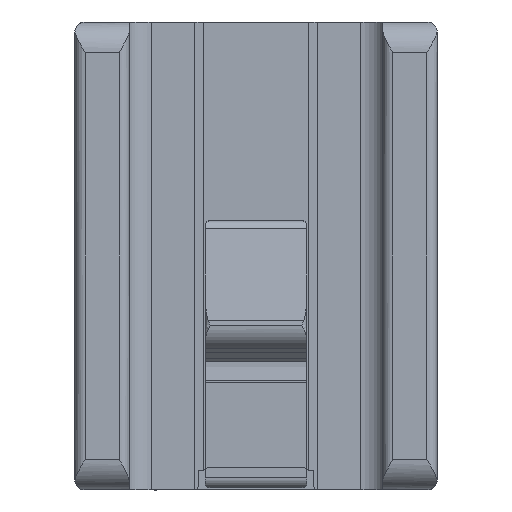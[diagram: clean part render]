
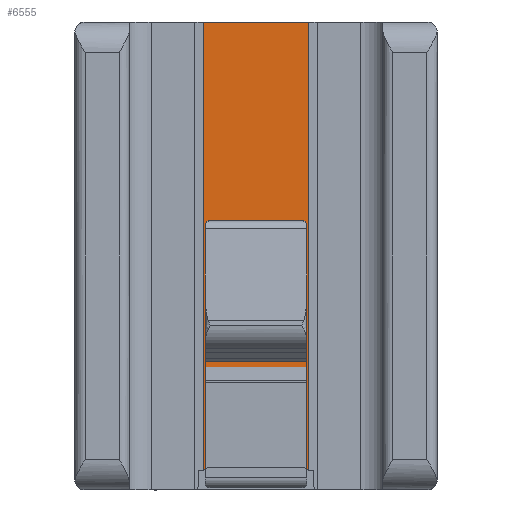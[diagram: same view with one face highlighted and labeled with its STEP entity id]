
A CAD part, front view. The second image highlights one B-rep face of the part: STEP entity #6555.
In plain terms, the highlighted planar face has unit normal (0, -1, 0).
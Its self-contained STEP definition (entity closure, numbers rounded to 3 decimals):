
#40 = DIRECTION ( 'NONE',  ( 0., -1., 0. ) ) ;
#213 = CARTESIAN_POINT ( 'NONE',  ( 19.8, 5664.25, 1620.8 ) ) ;
#300 = EDGE_CURVE ( 'NONE', #2592, #12517, #6272, .T. ) ;
#630 = VERTEX_POINT ( 'NONE', #4402 ) ;
#991 = AXIS2_PLACEMENT_3D ( 'NONE', #5789, #10683, #6741 ) ;
#1026 = CARTESIAN_POINT ( 'NONE',  ( 30.2, 5664.25, 1576.746 ) ) ;
#1062 = ORIENTED_EDGE ( 'NONE', *, *, #3240, .F. ) ;
#1076 = DIRECTION ( 'NONE',  ( 0., 0., -1. ) ) ;
#1127 = VECTOR ( 'NONE', #8123, 1000. ) ;
#2086 = EDGE_CURVE ( 'NONE', #5408, #10925, #6092, .T. ) ;
#2541 = CARTESIAN_POINT ( 'NONE',  ( 25., 5664.25, 1577. ) ) ;
#2592 = VERTEX_POINT ( 'NONE', #6695 ) ;
#2666 = VECTOR ( 'NONE', #5511, 1000. ) ;
#2897 = ORIENTED_EDGE ( 'NONE', *, *, #300, .T. ) ;
#3240 = EDGE_CURVE ( 'NONE', #8285, #12517, #5003, .T. ) ;
#3376 = EDGE_LOOP ( 'NONE', ( #10063, #11621, #6641, #2897, #1062, #11787 ) ) ;
#3396 = CARTESIAN_POINT ( 'NONE',  ( 30.2, 5664.25, 1620.8 ) ) ;
#3464 = CARTESIAN_POINT ( 'NONE',  ( 30.5, 5664.25, 1577.7 ) ) ;
#3833 = CIRCLE ( 'NONE', #991, 1. ) ;
#3862 = PLANE ( 'NONE',  #10234 ) ;
#4402 = CARTESIAN_POINT ( 'NONE',  ( 20.214, 5664.25, 1577. ) ) ;
#4783 = CARTESIAN_POINT ( 'NONE',  ( 19.8, 5664.25, 1576.746 ) ) ;
#4803 = CARTESIAN_POINT ( 'NONE',  ( 25., 5664.25, 1620.8 ) ) ;
#5003 = LINE ( 'NONE', #5950, #7921 ) ;
#5408 = VERTEX_POINT ( 'NONE', #213 ) ;
#5511 = DIRECTION ( 'NONE',  ( 0., 0., -1. ) ) ;
#5789 = CARTESIAN_POINT ( 'NONE',  ( 19.5, 5664.25, 1577.7 ) ) ;
#5807 = DIRECTION ( 'NONE',  ( 1., 0., 0. ) ) ;
#5950 = CARTESIAN_POINT ( 'NONE',  ( 30.2, 5664.25, 1620.8 ) ) ;
#6092 = LINE ( 'NONE', #9016, #2666 ) ;
#6272 = CIRCLE ( 'NONE', #7688, 1. ) ;
#6555 = ADVANCED_FACE ( 'NONE', ( #12347 ), #3862, .T. ) ;
#6641 = ORIENTED_EDGE ( 'NONE', *, *, #9893, .T. ) ;
#6695 = CARTESIAN_POINT ( 'NONE',  ( 29.786, 5664.25, 1577. ) ) ;
#6741 = DIRECTION ( 'NONE',  ( 1., 0., 0. ) ) ;
#7661 = DIRECTION ( 'NONE',  ( -1., 0., 0. ) ) ;
#7688 = AXIS2_PLACEMENT_3D ( 'NONE', #3464, #9478, #10490 ) ;
#7921 = VECTOR ( 'NONE', #1076, 1000. ) ;
#8123 = DIRECTION ( 'NONE',  ( 1., 0., 0. ) ) ;
#8285 = VERTEX_POINT ( 'NONE', #3396 ) ;
#9016 = CARTESIAN_POINT ( 'NONE',  ( 19.8, 5664.25, 1620.8 ) ) ;
#9125 = EDGE_CURVE ( 'NONE', #8285, #5408, #10388, .T. ) ;
#9265 = LINE ( 'NONE', #2541, #1127 ) ;
#9478 = DIRECTION ( 'NONE',  ( 0., -1., 0. ) ) ;
#9893 = EDGE_CURVE ( 'NONE', #630, #2592, #9265, .T. ) ;
#10063 = ORIENTED_EDGE ( 'NONE', *, *, #2086, .T. ) ;
#10234 = AXIS2_PLACEMENT_3D ( 'NONE', #4803, #40, #5807 ) ;
#10388 = LINE ( 'NONE', #11348, #11237 ) ;
#10490 = DIRECTION ( 'NONE',  ( 1., 0., 0. ) ) ;
#10683 = DIRECTION ( 'NONE',  ( 0., -1., 0. ) ) ;
#10921 = EDGE_CURVE ( 'NONE', #10925, #630, #3833, .T. ) ;
#10925 = VERTEX_POINT ( 'NONE', #4783 ) ;
#11237 = VECTOR ( 'NONE', #7661, 1000. ) ;
#11348 = CARTESIAN_POINT ( 'NONE',  ( 25., 5664.25, 1620.8 ) ) ;
#11621 = ORIENTED_EDGE ( 'NONE', *, *, #10921, .T. ) ;
#11787 = ORIENTED_EDGE ( 'NONE', *, *, #9125, .T. ) ;
#12347 = FACE_OUTER_BOUND ( 'NONE', #3376, .T. ) ;
#12517 = VERTEX_POINT ( 'NONE', #1026 ) ;
